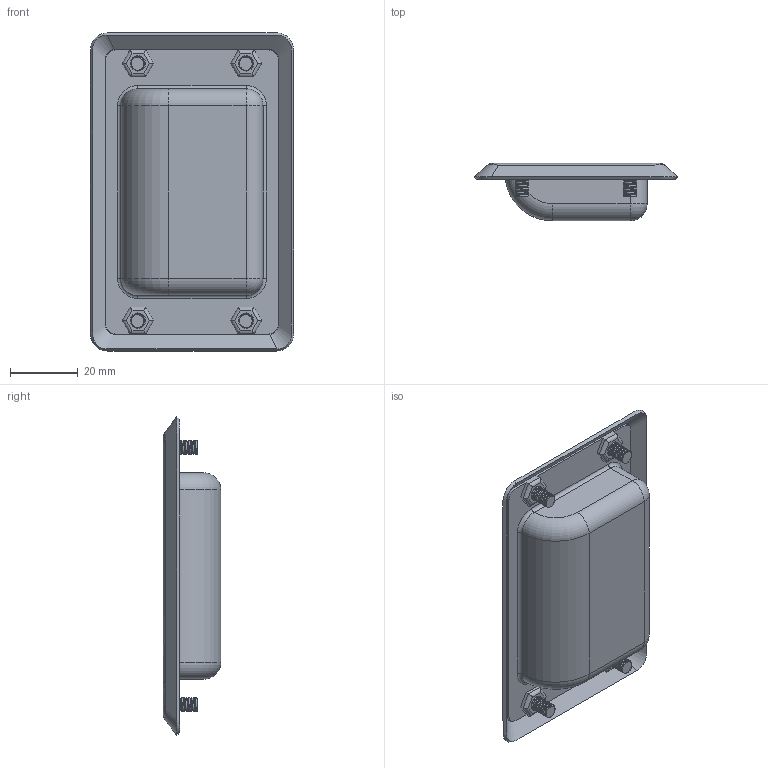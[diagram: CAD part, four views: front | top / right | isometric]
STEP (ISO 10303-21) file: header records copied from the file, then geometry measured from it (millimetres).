
FILE_DESCRIPTION (( 'STEP AP203' ), '1' );
FILE_NAME ('XG01-035-94A.STEP', '2025-07-25T07:29:19', ( '微软用户' ), ( '微软中国' ), 'SwSTEP 2.0', 'SolidWorks 2024', '' );
FILE_SCHEMA (( 'CONFIG_CONTROL_DESIGN' ));
Length unit declared in the file: millimetre
Products named in the file (1): XG01-035-94A
Bounding box: 60 x 17 x 94 mm (x, y, z)
Volume: 11736.2 mm3; surface area: 20732.1 mm2
Topology: 1 solids, 1 shells, 258 faces, 664 edges, 418 vertices
Faces by surface type: cylinder 140, plane 84, bspline 22, torus 8, sphere 4
Entity records: 19799 total; most frequent: CARTESIAN_POINT 14123, ORIENTED_EDGE 1320, DIRECTION 998, EDGE_CURVE 660, VERTEX_POINT 418, AXIS2_PLACEMENT_3D 339, LINE 320, VECTOR 320
